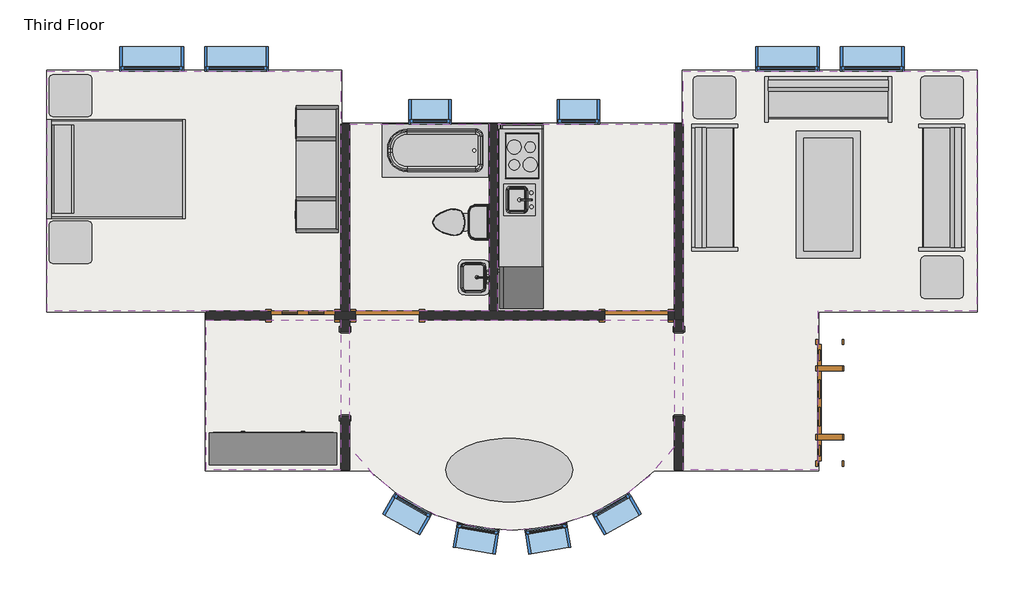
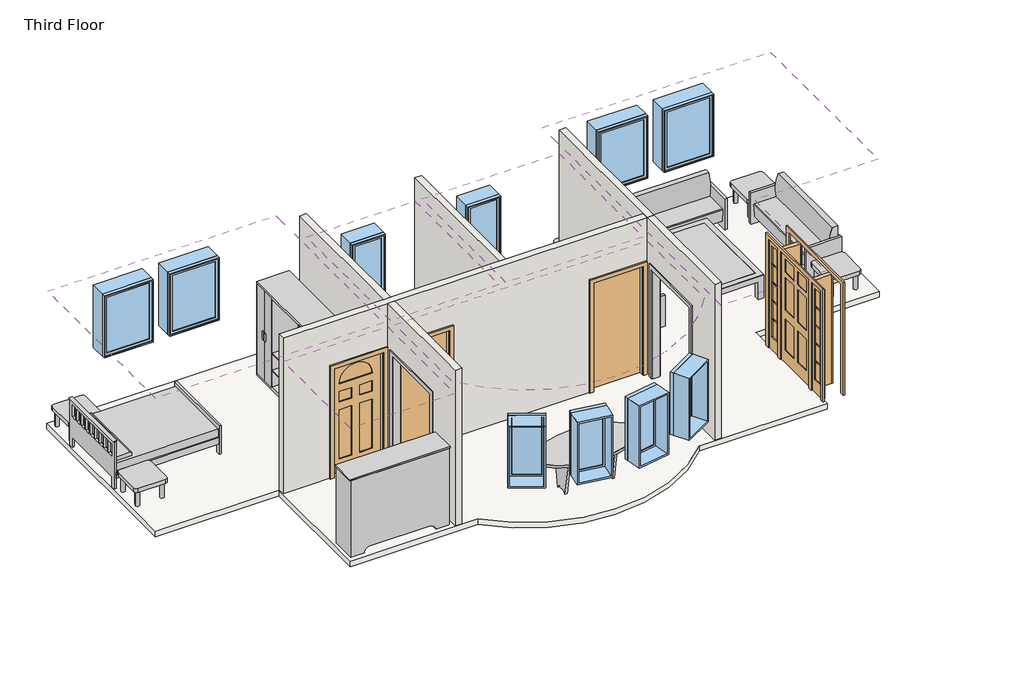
# One storey: 13 furniture elements, 10 windows, 6 coverings, 6 walls, 4 doors, 3 flow terminals, 3 proxies, 1 slab.
"""IFC4 building model written with IfcOpenShell, lengths in millimetres."""

from ifc_helpers import new_model, si_unit, point, frame, frame_2d, origin, place, context, project, spatial, polyline, circle_curve, trimmed, segment, composite_curve, outline, extrude, faceted_brep, transform, mapped, element, save
from components import kitchenette_medium_5_9f73a4de, proxy_f44482cc, door_2e3b4da2, door_a1797ceb, door_a3eb833a, door_dba5aa2e, flow_terminal_0aeb31e3, toilet_domestic_3d_toilet_domestic_3d_f7549cf7, toilet_domestic_3d_toilet_domestic_3d_183bbd19, tub_rectangular_3d_tub_rectangular_3d_7c57b2e9, furniture_096e7f55, furniture_7c473f12, furniture_ddc78764, furniture_4ef38d96, furniture_dde8a40a, furniture_cd93a443, furniture_fe1f7ef6, furniture_3a588284, furniture_1befe2a2, window_60baf983, window_ed80354a, window_15c49d37

model = new_model("IFC4")

# Units and contexts
model_context = context("Model", 3, world=origin())
ifc_project = project(units=[si_unit("LENGTHUNIT", "METRE", prefix="MILLI")], contexts=[model_context])

# Site, building, storey
site = spatial("IfcSite", under=ifc_project)
building = spatial("IfcBuilding", under=site)
storey = spatial("IfcBuildingStorey", under=building, Name="Third Floor", Elevation=6096.0)

# Proxies
placement = place(None, origin())
kitchenette_medium_5_shape = kitchenette_medium_5_9f73a4de(model_context)
element("IfcBuildingElementProxy", 1, Name="Kitchenette - Medium : 5'", ObjectType="Kitchenette - Medium : 5'", at=placement, inside=storey, context=model_context, shape_type="MappedRepresentation", body=[
    mapped(kitchenette_medium_5_shape, transform((2117.6576571, 10885.525963, 6096.0), x_axis=(0.0, -1.0, 0.0), y_axis=(1.0, 0.0, 0.0), z_axis=(0.0, 0.0, 1.0))),
])
proxy_shape = proxy_f44482cc(model_context)
element("IfcBuildingElementProxy", 2, Name="Opening-Cased : 48\" x 84\"", ObjectType="Opening-Cased : 48\" x 84\"", at=placement, inside=storey, context=model_context, shape_type="MappedRepresentation", body=[
    mapped(proxy_shape, transform((-732.7404149, 8023.3246014, 6096.0), x_axis=(0.0, -1.0, 0.0), y_axis=(1.0, 0.0, 0.0), z_axis=(0.0, 0.0, 1.0))),
])
element("IfcBuildingElementProxy", 3, Name="Opening-Cased : 48\" x 84\"", ObjectType="Opening-Cased : 48\" x 84\"", at=placement, inside=storey, context=model_context, shape_type="MappedRepresentation", body=[
    mapped(proxy_shape, transform((4064.6845851, 8039.7019148, 6096.0), x_axis=(0.0, 1.0, 0.0), y_axis=(-1.0, 0.0, 0.0), z_axis=(0.0, 0.0, 1.0))),
])

# Coverings
element("IfcCovering", 4, ObjectType="GWB on Mtl. Stud", at=placement, inside=storey, context=model_context, shape_type="SweptSolid", body=[
    extrude(outline(polyline([(-2906.0279149, 8933.2132581), (-5015.8154149, 8933.2132581), (-5015.8154149, 12390.7882581), (-796.2404149, 12390.7882581), (-796.2404149, 11805.0007581), (-796.2404149, 8933.2132581), (-2906.0279149, 8933.2132581)])), frame((0.0, 0.0, 8686.8), z_axis=(0.0, 0.0, 1.0), x_axis=(1.0, 0.0, 0.0)), (0.0, 0.0, 1.0), 107.95),
])
element("IfcCovering", 5, ObjectType="GWB on Mtl. Stud", at=placement, inside=storey, context=model_context, shape_type="SweptSolid", body=[
    extrude(outline(polyline([(-669.2404149, 8933.2132581), (-669.2404149, 11628.7882581), (1337.3595851, 11628.7882581), (1337.3595851, 8933.2132581), (-669.2404149, 8933.2132581)])), frame((0.0, 0.0, 8686.8), z_axis=(0.0, 0.0, 1.0), x_axis=(1.0, 0.0, 0.0)), (0.0, 0.0, 1.0), 107.95),
])
element("IfcCovering", 6, ObjectType="GWB on Mtl. Stud", at=placement, inside=storey, context=model_context, shape_type="SweptSolid", body=[
    extrude(outline(polyline([(1464.3595851, 11628.7882581), (4001.1845851, 11628.7882581), (4001.1845851, 8933.2132581), (1464.3595851, 8933.2132581), (1464.3595851, 11628.7882581)])), frame((0.0, 0.0, 8686.8), z_axis=(0.0, 0.0, 1.0), x_axis=(1.0, 0.0, 0.0)), (0.0, 0.0, 1.0), 107.95),
])
element("IfcCovering", 7, ObjectType="GWB on Mtl. Stud", at=placement, inside=storey, context=model_context, shape_type="SweptSolid", body=[
    extrude(outline(polyline([(8347.7595851, 12390.7882581), (8347.7595851, 8933.2132581), (6061.7595851, 8933.2132581), (6061.7595851, 6647.2132581), (4128.1845851, 6647.2132581), (4128.1845851, 8869.7132581), (4128.1845851, 11805.0007581), (4128.1845851, 12390.7882581), (8347.7595851, 12390.7882581)])), frame((0.0, 0.0, 8686.8), z_axis=(0.0, 0.0, 1.0), x_axis=(1.0, 0.0, 0.0)), (0.0, 0.0, 1.0), 107.95),
])
element("IfcCovering", 8, ObjectType="GWB on Mtl. Stud", at=placement, inside=storey, context=model_context, shape_type="SweptSolid", body=[
    extrude(outline(composite_curve([segment(trimmed(circle_curve(frame_2d((1665.9720851, 8647.7081431)), 2871.7875), [point((4001.1845851, 6976.19804))], [point((-669.2404149, 6976.19804))], False, "CARTESIAN"), True, "CONTINUOUS"), segment(polyline([(-669.2404149, 6976.19804), (-669.2404149, 8806.2132581), (4001.1845851, 8806.2132581), (4001.1845851, 6976.19804)]), True, "CONTINUOUS")], self_intersect=False)), frame((0.0, 0.0, 8686.8), z_axis=(0.0, 0.0, 1.0), x_axis=(1.0, 0.0, 0.0)), (0.0, 0.0, 1.0), 107.95),
])
element("IfcCovering", 9, ObjectType="GWB on Mtl. Stud", at=placement, inside=storey, context=model_context, shape_type="SweptSolid", body=[
    extrude(outline(polyline([(-796.2404149, 6647.2132581), (-2729.8154149, 6647.2132581), (-2729.8154149, 8806.2132581), (-796.2404149, 8806.2132581), (-796.2404149, 6647.2132581)])), frame((0.0, 0.0, 8686.8), z_axis=(0.0, 0.0, 1.0), x_axis=(1.0, 0.0, 0.0)), (0.0, 0.0, 1.0), 107.95),
])

# Doors
door_shape = door_2e3b4da2(model_context)
element("IfcDoor", 10, ObjectType="Single-Decorative 2 : 36\" x 84\"", at=placement, inside=storey, context=model_context, shape_type="MappedRepresentation", body=[
    mapped(door_shape, transform((-1342.3404149, 8869.7132581, 6096.0), x_axis=(1.0, 0.0, 0.0), y_axis=(0.0, 1.0, 0.0), z_axis=(0.0, 0.0, 1.0))),
])
door_2_shape = door_a1797ceb(model_context)
element("IfcDoor", 11, ObjectType="Single-Flush : 36\" x 84\"", at=placement, inside=storey, context=model_context, shape_type="MappedRepresentation", body=[
    mapped(door_2_shape, transform((3455.0845851, 8869.7132581, 6096.0), x_axis=(1.0, 0.0, 0.0), y_axis=(0.0, 1.0, 0.0), z_axis=(0.0, 0.0, 1.0))),
])
door_3_shape = door_a3eb833a(model_context)
element("IfcDoor", 12, ObjectType="Single-Flush : 36\" x 84\"", at=placement, inside=storey, context=model_context, shape_type="MappedRepresentation", body=[
    mapped(door_3_shape, transform((-123.1404149, 8869.7132581, 6096.0), x_axis=(-1.0, 0.0, 0.0), y_axis=(0.0, -1.0, 0.0), z_axis=(0.0, 0.0, 1.0))),
])
door_4_shape = door_dba5aa2e(model_context)
element("IfcDoor", 13, ObjectType="Single-Raised Panel with Sidelights : 36\" x 84\"", at=placement, inside=storey, context=model_context, shape_type="MappedRepresentation", body=[
    mapped(door_4_shape, transform((6237.9720851, 7614.0007581, 6096.0), x_axis=(0.0, -1.0, 0.0), y_axis=(1.0, 0.0, 0.0), z_axis=(0.0, 0.0, 1.0))),
])

# Flow terminals
flow_terminal_shape = flow_terminal_0aeb31e3(model_context)
element("IfcFlowTerminal", 14, ObjectType="Sink Vanity-Square : 24\" x 19\"", at=placement, inside=storey, context=model_context, shape_type="MappedRepresentation", body=[
    mapped(flow_terminal_shape, transform((1157.214184, 9434.4995407, 6096.0), x_axis=(0.0, -1.0, 0.0), y_axis=(1.0, 0.0, 0.0), z_axis=(0.0, 0.0, 1.0))),
])
toilet_domestic_3d_toilet_domestic_3d_shape = toilet_domestic_3d_toilet_domestic_3d_f7549cf7(model_context)
toilet_domestic_3d_toilet_domestic_3d_2_shape = toilet_domestic_3d_toilet_domestic_3d_183bbd19(model_context)
element("IfcFlowTerminal", 15, ObjectType="Toilet-Domestic-3D : Toilet-Domestic-3D", at=placement, inside=storey, context=model_context, shape_type="MappedRepresentation", body=[
    mapped(toilet_domestic_3d_toilet_domestic_3d_shape, transform((831.6983718, 10214.097778, 6096.0), x_axis=(0.0, -1.0000000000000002, 0.0), y_axis=(1.0000000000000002, 0.0, 0.0), z_axis=(0.0, 0.0, 1.0))),
    mapped(toilet_domestic_3d_toilet_domestic_3d_2_shape, transform((831.6983718, 10214.097778, 6096.0), x_axis=(0.0, -1.0000000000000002, 0.0), y_axis=(1.0000000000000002, 0.0, 0.0), z_axis=(0.0, 0.0, 1.0))),
])
tub_rectangular_3d_tub_rectangular_3d_shape = tub_rectangular_3d_tub_rectangular_3d_7c57b2e9(model_context)
element("IfcFlowTerminal", 16, ObjectType="Tub-Rectangular-3D : Tub-Rectangular-3D", at=placement, inside=storey, context=model_context, shape_type="MappedRepresentation", body=[
    mapped(tub_rectangular_3d_tub_rectangular_3d_shape, transform((214.0566164, 11805.0007581, 6096.0), x_axis=(-0.9999999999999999, 0.0, 0.0), y_axis=(0.0, -0.9999999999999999, 0.0), z_axis=(0.0, 0.0, 1.0))),
])

# Furniture
furniture_shape = furniture_096e7f55(model_context)
element("IfcFurniture", 17, ObjectType="Bed-Shaker : Double 56\" x 78\"", at=placement, inside=storey, context=model_context, shape_type="MappedRepresentation", body=[
    mapped(furniture_shape, transform((-5013.1126898, 10998.5900785, 6096.0), x_axis=(0.0, 1.0, 0.0), y_axis=(-1.0, 0.0, 0.0), z_axis=(0.0, 0.0, 1.0))),
])
furniture_2_shape = furniture_7c473f12(model_context)
element("IfcFurniture", 18, ObjectType="Dresser : 72\" x 60\" x 18\"", at=placement, inside=storey, context=model_context, shape_type="MappedRepresentation", body=[
    mapped(furniture_2_shape, transform((-2039.8604591, 6588.850304, 6096.0), x_axis=(-1.0, 0.0, 0.0), y_axis=(0.0, -1.0, 0.0), z_axis=(0.0, 0.0, 1.0))),
])
furniture_3_shape = furniture_ddc78764(model_context)
element("IfcFurniture", 19, ObjectType="Entertainment Center : 72\" x 72\" x 24\"", at=placement, inside=storey, context=model_context, shape_type="MappedRepresentation", body=[
    mapped(furniture_3_shape, transform((-733.8851408, 10979.5400785, 6096.0), x_axis=(0.0, -1.0, 0.0), y_axis=(1.0, 0.0, 0.0), z_axis=(0.0, 0.0, 1.0))),
])
furniture_4_shape = furniture_4ef38d96(model_context)
element("IfcFurniture", 20, ObjectType="Sofa : 72\"", at=placement, inside=storey, context=model_context, shape_type="MappedRepresentation", body=[
    mapped(furniture_4_shape, transform((6143.7890933, 11835.0591598, 6096.0), x_axis=(1.0, 0.0, 0.0), y_axis=(0.0, 1.0, 0.0), z_axis=(0.0, 0.0, 1.0))),
])
element("IfcFurniture", 21, ObjectType="Sofa : 72\"", at=placement, inside=storey, context=model_context, shape_type="MappedRepresentation", body=[
    mapped(furniture_4_shape, transform((4726.0692419, 10644.2919955, 6096.0), x_axis=(0.0, 1.0, 0.0), y_axis=(-1.0, 0.0, 0.0), z_axis=(0.0, 0.0, 1.0))),
])
furniture_5_shape = furniture_dde8a40a(model_context)
element("IfcFurniture", 22, ObjectType="Sofa : 72\"", at=placement, inside=storey, context=model_context, shape_type="MappedRepresentation", body=[
    mapped(furniture_5_shape, transform((7702.2499284, 10644.2919955, 6096.0), x_axis=(0.0, 1.0, 0.0), y_axis=(-1.0, 0.0, 0.0), z_axis=(0.0, 0.0, 1.0))),
])
furniture_6_shape = furniture_cd93a443(model_context)
element("IfcFurniture", 23, ObjectType="Table-Coffee : 36\" x 72\" x 18\"", at=placement, inside=storey, context=model_context, shape_type="MappedRepresentation", body=[
    mapped(furniture_6_shape, transform((6118.9485073, 10627.8790248, 6096.0), x_axis=(0.0, -1.0, 0.0), y_axis=(1.0, 0.0, 0.0), z_axis=(0.0, 0.0, 1.0))),
])
furniture_7_shape = furniture_fe1f7ef6(model_context)
element("IfcFurniture", 24, ObjectType="Table-Ellipse : 72\" x 36\"", at=placement, inside=storey, context=model_context, shape_type="MappedRepresentation", body=[
    mapped(furniture_7_shape, transform((1626.2845851, 6647.2132581, 6096.0), x_axis=(1.0, 0.0, 0.0), y_axis=(0.0, 1.0, 0.0), z_axis=(0.0, 0.0, 1.0))),
])
furniture_8_shape = furniture_3a588284(model_context)
element("IfcFurniture", 25, ObjectType="Table-End : 24\" x 24\"", at=placement, inside=storey, context=model_context, shape_type="MappedRepresentation", body=[
    mapped(furniture_8_shape, transform((4271.3815133, 11857.6624873, 6096.0), x_axis=(1.0, 0.0, 0.0), y_axis=(0.0, 1.0, 0.0), z_axis=(0.0, 0.0, 1.0))),
])
element("IfcFurniture", 26, ObjectType="Table-End : 24\" x 24\"", at=placement, inside=storey, context=model_context, shape_type="MappedRepresentation", body=[
    mapped(furniture_8_shape, transform((-4994.1490451, 11882.7882581, 6096.0), x_axis=(1.0, 0.0, 0.0), y_axis=(0.0, 1.0, 0.0), z_axis=(0.0, 0.0, 1.0))),
])
element("IfcFurniture", 27, ObjectType="Table-End : 24\" x 24\"", at=placement, inside=storey, context=model_context, shape_type="MappedRepresentation", body=[
    mapped(furniture_8_shape, transform((8156.937657, 9571.6624873, 6096.0), x_axis=(-1.0, 0.0, 0.0), y_axis=(0.0, -1.0, 0.0), z_axis=(0.0, 0.0, 1.0))),
])
furniture_9_shape = furniture_1befe2a2(model_context)
element("IfcFurniture", 28, ObjectType="Table-End : 24\" x 24\"", at=placement, inside=storey, context=model_context, shape_type="MappedRepresentation", body=[
    mapped(furniture_9_shape, transform((-4994.1490451, 10076.2918989, 6096.0), x_axis=(1.0, 0.0, 0.0), y_axis=(0.0, 1.0, 0.0), z_axis=(0.0, 0.0, 1.0))),
])
element("IfcFurniture", 29, ObjectType="Table-End : 24\" x 24\"", at=placement, inside=storey, context=model_context, shape_type="MappedRepresentation", body=[
    mapped(furniture_9_shape, transform((8156.937657, 11857.6624873, 6096.0), x_axis=(-1.0, 0.0, 0.0), y_axis=(0.0, -1.0, 0.0), z_axis=(0.0, 0.0, 1.0))),
])

# Slab
element("IfcSlab", 30, ObjectType="LW Concrete on Metal Deck", at=placement, inside=storey, context=model_context, shape_type="SweptSolid", body=[
    extrude(outline(composite_curve([segment(polyline([(-783.5404149, 12403.4882581), (-783.5404149, 11641.4882581), (4115.4845851, 11641.4882581), (4115.4845851, 12403.4882581), (8360.4595851, 12403.4882581), (8360.4595851, 8920.5132581), (6074.4595851, 8920.5132581), (6074.4595851, 6634.5132581), (3713.949087, 6634.5132581)]), True, "CONTINUOUS"), segment(trimmed(circle_curve(frame_2d((1665.9720851, 8647.7081431)), 2871.7875), [point((3713.949087, 6634.5132581))], [point((-382.0049167, 6634.5132581))], False, "CARTESIAN"), True, "CONTINUOUS"), segment(polyline([(-382.0049167, 6634.5132581), (-2742.5154149, 6634.5132581), (-2742.5154149, 8920.5132581), (-5028.5154149, 8920.5132581), (-5028.5154149, 12403.4882581), (-783.5404149, 12403.4882581)]), True, "CONTINUOUS")], self_intersect=False)), frame((0.0, 0.0, 5991.225), z_axis=(0.0, 0.0, 1.0), x_axis=(1.0, 0.0, 0.0)), (0.0, 0.0, 1.0), 104.775),
])

# Walls
element("IfcWall", 31, ObjectType="Interior - 5\" Partition (2-hr)", at=placement, inside=storey, context=model_context, shape_type="Brep", body=[
    faceted_brep([(4001.1845851, 11628.7882581, 6096.0), (4001.1845851, 8933.2132581, 6096.0), (4001.1845851, 8806.2132581, 6096.0), (4001.1845851, 8806.2132581, 9144.0), (4001.1845851, 8933.2132581, 9144.0), (4001.1845851, 11628.7882581, 9144.0), (4128.1845851, 11628.7882581, 6096.0), (4128.1845851, 11628.7882581, 9144.0), (4128.1845851, 8806.2132581, 9144.0), (4128.1845851, 8806.2132581, 6096.0)], [[[0, 1, 2, 3, 4, 5]], [[6, 7, 8, 9]], [[2, 1, 0, 6, 9]], [[5, 4, 3, 8, 7]], [[3, 2, 9, 8]], [[0, 5, 7, 6]]]),
])
element("IfcWall", 32, ObjectType="Interior - 5\" Partition (2-hr)", at=placement, inside=storey, context=model_context, shape_type="Brep", body=[
    faceted_brep([(-885.1404149, 8806.2132581, 8229.6), (-885.1404149, 8806.2132581, 6096.0), (-796.2404149, 8806.2132581, 6096.0), (-669.2404149, 8806.2132581, 6096.0), (-580.3404149, 8806.2132581, 6096.0), (-580.3404149, 8806.2132581, 8229.6), (334.0595851, 8806.2132581, 8229.6), (334.0595851, 8806.2132581, 6096.0), (2997.8845851, 8806.2132581, 6096.0), (2997.8845851, 8806.2132581, 8229.6), (3912.2845851, 8806.2132581, 8229.6), (3912.2845851, 8806.2132581, 6096.0), (4001.1845851, 8806.2132581, 6096.0), (4001.1845851, 8806.2132581, 9144.0), (-669.2404149, 8806.2132581, 9144.0), (-796.2404149, 8806.2132581, 9144.0), (-2729.8154149, 8806.2132581, 9144.0), (-2729.8154149, 8806.2132581, 6096.0), (-1799.5404149, 8806.2132581, 6096.0), (-1799.5404149, 8806.2132581, 8229.6), (-580.3404149, 8933.2132581, 6096.0), (-669.2404149, 8933.2132581, 6096.0), (-796.2404149, 8933.2132581, 6096.0), (-885.1404149, 8933.2132581, 6096.0), (-885.1404149, 8933.2132581, 8229.6), (-1799.5404149, 8933.2132581, 8229.6), (-1799.5404149, 8933.2132581, 6096.0), (-2729.8154149, 8933.2132581, 6096.0), (-2729.8154149, 8933.2132581, 9144.0), (-796.2404149, 8933.2132581, 9144.0), (-669.2404149, 8933.2132581, 9144.0), (1337.3595851, 8933.2132581, 9144.0), (1464.3595851, 8933.2132581, 9144.0), (4001.1845851, 8933.2132581, 9144.0), (4001.1845851, 8933.2132581, 6096.0), (3912.2845851, 8933.2132581, 6096.0), (3912.2845851, 8933.2132581, 8229.6), (2997.8845851, 8933.2132581, 8229.6), (2997.8845851, 8933.2132581, 6096.0), (1464.3595851, 8933.2132581, 6096.0), (1337.3595851, 8933.2132581, 6096.0), (334.0595851, 8933.2132581, 6096.0), (334.0595851, 8933.2132581, 8229.6), (-580.3404149, 8933.2132581, 8229.6)], [[[0, 1, 2, 3, 4, 5, 6, 7, 8, 9, 10, 11, 12, 13, 14, 15, 16, 17, 18, 19]], [[20, 21, 22, 23, 24, 25, 26, 27, 28, 29, 30, 31, 32, 33, 34, 35, 36, 37, 38, 39, 40, 41, 42, 43]], [[12, 11, 35, 34]], [[4, 3, 2, 1, 23, 22, 21, 20]], [[41, 40, 39, 38, 8, 7]], [[18, 17, 27, 26]], [[16, 15, 14, 13, 33, 32, 31, 30, 29, 28]], [[13, 12, 34, 33]], [[17, 16, 28, 27]], [[36, 35, 11, 10]], [[37, 36, 10, 9]], [[38, 37, 9, 8]], [[5, 4, 20, 43]], [[6, 5, 43, 42]], [[7, 6, 42, 41]], [[24, 23, 1, 0]], [[25, 24, 0, 19]], [[26, 25, 19, 18]]]),
])
element("IfcWall", 33, ObjectType="Interior - 5\" Partition (2-hr)", at=placement, inside=storey, context=model_context, shape_type="SweptSolid", body=[
    extrude(outline(polyline([(-796.2404149, 8933.2132581), (-796.2404149, 11628.7882581), (-669.2404149, 11628.7882581), (-669.2404149, 8933.2132581), (-796.2404149, 8933.2132581)])), frame((0.0, 0.0, 6096.0), z_axis=(0.0, 0.0, 1.0), x_axis=(1.0, 0.0, 0.0)), (0.0, 0.0, 1.0), 3048.0),
])
element("IfcWall", 34, ObjectType="Interior - 5\" Partition (2-hr)", at=placement, inside=storey, context=model_context, shape_type="SweptSolid", body=[
    extrude(outline(polyline([(1464.3595851, 11628.7882581), (1464.3595851, 8933.2132581), (1337.3595851, 8933.2132581), (1337.3595851, 11628.7882581), (1464.3595851, 11628.7882581)])), frame((0.0, 0.0, 6096.0), z_axis=(0.0, 0.0, 1.0), x_axis=(1.0, 0.0, 0.0)), (0.0, 0.0, 1.0), 3048.0),
])
element("IfcWall", 35, ObjectType="Interior - 5\" Partition (2-hr)", at=placement, inside=storey, context=model_context, shape_type="SweptSolid", body=[
    extrude(outline(polyline([(7421.9132581, 8229.6), (7421.9132581, 6096.0), (6647.2132581, 6096.0), (6647.2132581, 9144.0), (8806.2132581, 9144.0), (8806.2132581, 6096.0), (8641.1132581, 6096.0), (8641.1132581, 8229.6), (7421.9132581, 8229.6)])), frame((-796.2404149, 0.0, 0.0), z_axis=(1.0, 0.0, 0.0), x_axis=(0.0, 1.0, 0.0)), (0.0, 0.0, 1.0), 127.0),
])
element("IfcWall", 36, ObjectType="Interior - 5\" Partition (2-hr)", at=placement, inside=storey, context=model_context, shape_type="SweptSolid", body=[
    extrude(outline(polyline([(8806.2132581, 6096.0), (8641.1132581, 6096.0), (8641.1132581, 8229.6), (7421.9132581, 8229.6), (7421.9132581, 6096.0), (6647.2132581, 6096.0), (6647.2132581, 9144.0), (8806.2132581, 9144.0), (8806.2132581, 6096.0)])), frame((4001.1845851, 0.0, 0.0), z_axis=(1.0, 0.0, 0.0), x_axis=(0.0, 1.0, 0.0)), (0.0, 0.0, 1.0), 127.0),
])

# Windows
window_shape = window_60baf983(model_context)
element("IfcWindow", 37, ObjectType="Fixed : 24\" x 48\"", at=placement, inside=storey, context=model_context, shape_type="MappedRepresentation", body=[
    mapped(window_shape, transform((2581.9595851, 11805.0007581, 6096.0), x_axis=(-0.9999999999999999, 0.0, 0.0), y_axis=(0.0, -0.9999999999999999, 0.0), z_axis=(0.0, 0.0, 1.0))),
])
element("IfcWindow", 38, ObjectType="Fixed : 24\" x 48\"", at=placement, inside=storey, context=model_context, shape_type="MappedRepresentation", body=[
    mapped(window_shape, transform((448.3595851, 11805.0007581, 6096.0), x_axis=(-0.9999999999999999, 0.0, 0.0), y_axis=(0.0, -0.9999999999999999, 0.0), z_axis=(0.0, 0.0, 1.0))),
])
element("IfcWindow", 39, ObjectType="Fixed : 24\" x 48\"", at=placement, inside=storey, context=model_context, shape_type="MappedRepresentation", body=[
    mapped(window_shape, transform((194.709276, 5996.5722256, 6096.0), x_axis=(0.8682133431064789, -0.4961910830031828, 0.0), y_axis=(0.4961910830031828, 0.8682133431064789, 0.0), z_axis=(0.0, 0.0, 1.0))),
])
element("IfcWindow", 40, ObjectType="Fixed : 24\" x 48\"", at=placement, inside=storey, context=model_context, shape_type="MappedRepresentation", body=[
    mapped(window_shape, transform((1188.928449, 5653.4527639, 6096.0), x_axis=(0.9854902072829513, -0.1697322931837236, 0.0), y_axis=(0.1697322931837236, 0.9854902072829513, 0.0), z_axis=(0.0, 0.0, 1.0))),
])
window_2_shape = window_ed80354a(model_context)
element("IfcWindow", 41, ObjectType="Fixed : 24\" x 48\"", at=placement, inside=storey, context=model_context, shape_type="MappedRepresentation", body=[
    mapped(window_2_shape, transform((3137.2348943, 5996.5722256, 6096.0), x_axis=(-0.8682133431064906, -0.49619108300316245, 0.0), y_axis=(0.49619108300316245, -0.8682133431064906, 0.0), z_axis=(0.0, 0.0, 1.0))),
])
element("IfcWindow", 42, ObjectType="Fixed : 24\" x 48\"", at=placement, inside=storey, context=model_context, shape_type="MappedRepresentation", body=[
    mapped(window_2_shape, transform((2143.0157213, 5653.4527639, 6096.0), x_axis=(-0.9854902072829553, -0.16973229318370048, 0.0), y_axis=(0.16973229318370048, -0.9854902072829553, 0.0), z_axis=(0.0, 0.0, 1.0))),
])
window_3_shape = window_15c49d37(model_context)
element("IfcWindow", 43, ObjectType="Fixed : 36\" x 48\"", at=placement, inside=storey, context=model_context, shape_type="MappedRepresentation", body=[
    mapped(window_3_shape, transform((-3553.7279149, 12567.0007581, 6096.0), x_axis=(-1.0, 0.0, 0.0), y_axis=(0.0, -1.0, 0.0), z_axis=(0.0, 0.0, 1.0))),
])
element("IfcWindow", 44, ObjectType="Fixed : 36\" x 48\"", at=placement, inside=storey, context=model_context, shape_type="MappedRepresentation", body=[
    mapped(window_3_shape, transform((-2334.5279149, 12567.0007581, 6096.0), x_axis=(-1.0, 0.0, 0.0), y_axis=(0.0, -1.0, 0.0), z_axis=(0.0, 0.0, 1.0))),
])
element("IfcWindow", 45, ObjectType="Fixed : 36\" x 48\"", at=placement, inside=storey, context=model_context, shape_type="MappedRepresentation", body=[
    mapped(window_3_shape, transform((6809.4720851, 12567.0007581, 6096.0), x_axis=(-1.0, 0.0, 0.0), y_axis=(0.0, -1.0, 0.0), z_axis=(0.0, 0.0, 1.0))),
])
element("IfcWindow", 46, ObjectType="Fixed : 36\" x 48\"", at=placement, inside=storey, context=model_context, shape_type="MappedRepresentation", body=[
    mapped(window_3_shape, transform((5590.2720851, 12567.0007581, 6096.0), x_axis=(-1.0, 0.0, 0.0), y_axis=(0.0, -1.0, 0.0), z_axis=(0.0, 0.0, 1.0))),
])

save(model, "model.ifc")
